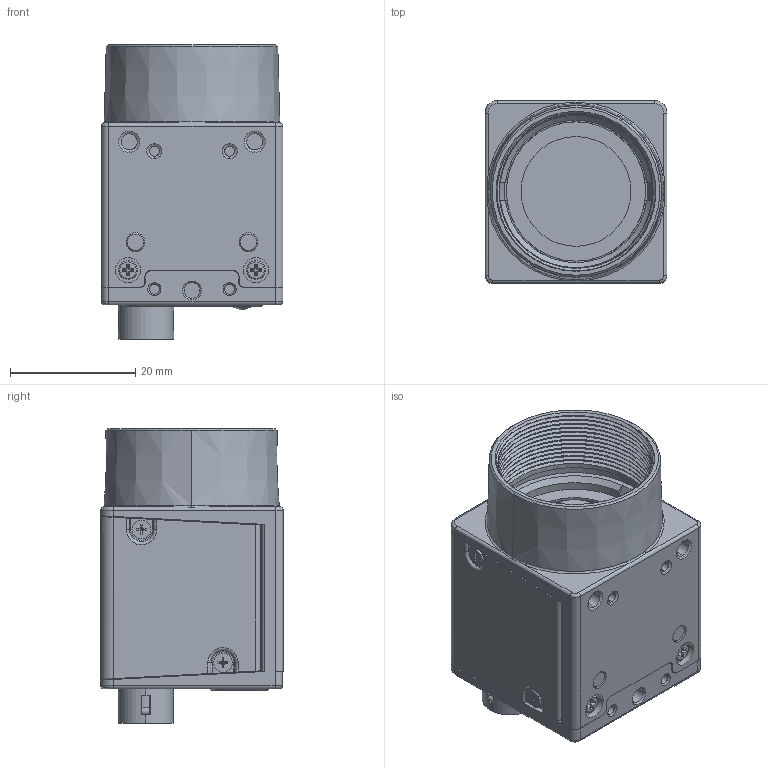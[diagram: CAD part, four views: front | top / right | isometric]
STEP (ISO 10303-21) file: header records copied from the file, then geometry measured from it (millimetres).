
FILE_DESCRIPTION((''),'2;1');
FILE_NAME('DH3-0694-6330_1','2023-11-24T14:34:39',('401332'),(''),'CREO PARAMETRIC BY PTC INC, 2020184','CREO PARAMETRIC BY PTC INC, 2020184','');
FILE_SCHEMA(('CONFIG_CONTROL_DESIGN','SHAPE_APPEARANCE_LAYERS_GROUPS'));
Products named in the file (1): DH3-0694-6330_1
Bounding box: 29 x 29.13 x 47 mm (x, y, z)
Volume: 21640.5 mm3; surface area: 15412.3 mm2
Topology: 1 solids, 3 shells, 1754 faces, 4821 edges, 3048 vertices
Faces by surface type: plane 846, cylinder 552, bspline 142, cone 134, torus 50, extrusion 28, sphere 2
Entity records: 82887 total; most frequent: CARTESIAN_POINT 23104, ORIENTED_EDGE 9630, DIRECTION 8451, PRESENTATION_STYLE_ASSIGNMENT 5020, STYLED_ITEM 4818, CURVE_STYLE 4815, EDGE_CURVE 4815, VERTEX_POINT 3105
